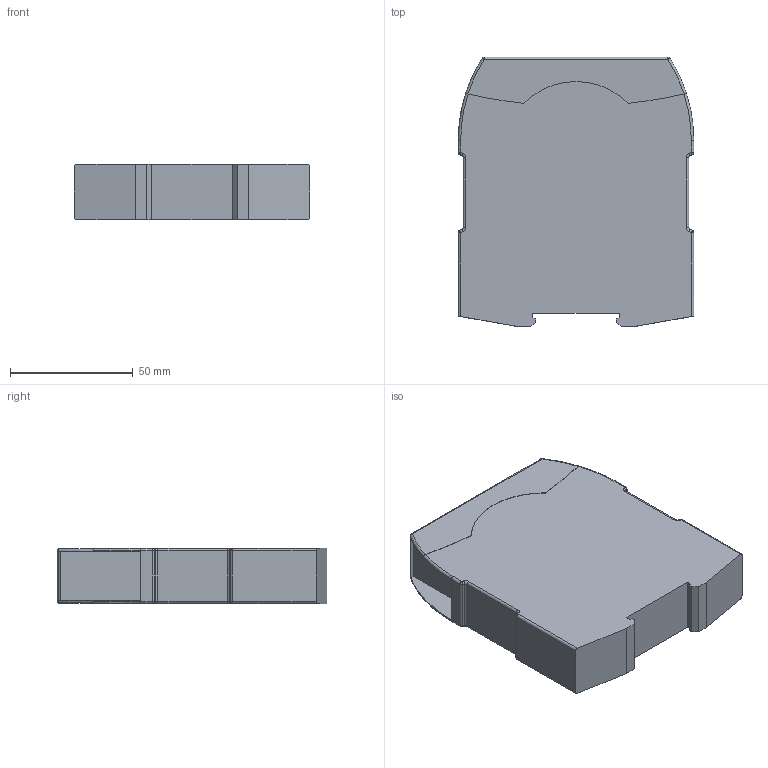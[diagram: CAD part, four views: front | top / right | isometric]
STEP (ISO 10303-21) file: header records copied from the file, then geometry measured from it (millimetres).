
FILE_DESCRIPTION((''),'2;1');
FILE_NAME('2009250','2016-03-01T',('merz'),(''),'PRO/ENGINEER BY PARAMETRIC TECHNOLOGY CORPORATION, 2015280','PRO/ENGINEER BY PARAMETRIC TECHNOLOGY CORPORATION, 2015280','');
FILE_SCHEMA(('AUTOMOTIVE_DESIGN { 1 0 10303 214 1 1 1 1 }'));
Length unit declared in the file: millimetre
Products named in the file (1): 2009250
Bounding box: 96 x 110 x 22.5 mm (x, y, z)
Volume: 212558.9 mm3; surface area: 30110.2 mm2
Topology: 1 solids, 1 shells, 142 faces, 346 edges, 212 vertices
Faces by surface type: plane 69, cylinder 44, torus 17, sphere 12
Entity records: 5666 total; most frequent: CARTESIAN_POINT 805, DIRECTION 727, ORIENTED_EDGE 692, PRESENTATION_STYLE_ASSIGNMENT 352, STYLED_ITEM 347, CURVE_STYLE 346, EDGE_CURVE 346, AXIS2_PLACEMENT_3D 256
